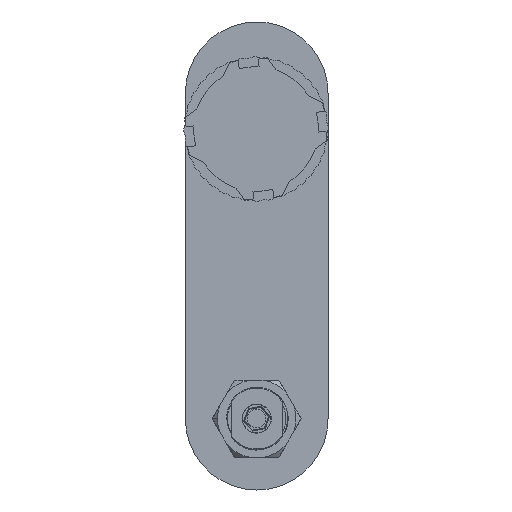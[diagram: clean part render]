
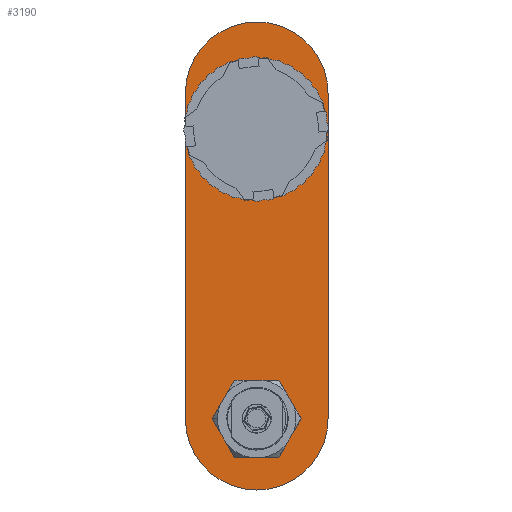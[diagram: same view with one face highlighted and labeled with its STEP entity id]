
A CAD part, front view. The second image highlights one B-rep face of the part: STEP entity #3190.
In plain terms, the highlighted planar face has unit normal (0, -1, 0).
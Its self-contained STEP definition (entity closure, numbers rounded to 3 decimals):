
#196 = CIRCLE ( 'NONE', #233, 22.5 ) ;
#233 = AXIS2_PLACEMENT_3D ( 'NONE', #257, #250, #248 ) ;
#248 = DIRECTION ( 'NONE',  ( 0., 0., 1. ) ) ;
#250 = DIRECTION ( 'NONE',  ( 0., -1., 0. ) ) ;
#257 = CARTESIAN_POINT ( 'NONE',  ( 0., 0., -13. ) ) ;
#328 = VERTEX_POINT ( 'NONE', #5766 ) ;
#382 = VERTEX_POINT ( 'NONE', #5767 ) ;
#852 = EDGE_CURVE ( 'NONE', #382, #328, #5803, .T. ) ;
#2174 = CARTESIAN_POINT ( 'NONE',  ( 0., 0., -125. ) ) ;
#2226 = CIRCLE ( 'NONE', #2229, 11. ) ;
#2229 = AXIS2_PLACEMENT_3D ( 'NONE', #2236, #2270, #2269 ) ;
#2230 = CARTESIAN_POINT ( 'NONE',  ( 0., 0., -103. ) ) ;
#2236 = CARTESIAN_POINT ( 'NONE',  ( 0., 0., -114. ) ) ;
#2240 = CARTESIAN_POINT ( 'NONE',  ( -10.904, 0., -115.446 ) ) ;
#2241 = CIRCLE ( 'NONE', #2299, 11. ) ;
#2251 = CARTESIAN_POINT ( 'NONE',  ( 0., 0., -114. ) ) ;
#2269 = DIRECTION ( 'NONE',  ( 0., 0., 1. ) ) ;
#2270 = DIRECTION ( 'NONE',  ( 0., -1., 0. ) ) ;
#2289 = DIRECTION ( 'NONE',  ( 0., 0., 1. ) ) ;
#2294 = DIRECTION ( 'NONE',  ( 0., -1., 0. ) ) ;
#2299 = AXIS2_PLACEMENT_3D ( 'NONE', #2251, #2294, #2289 ) ;
#3126 = ORIENTED_EDGE ( 'NONE', *, *, #852, .F. ) ;
#3146 = ORIENTED_EDGE ( 'NONE', *, *, #3420, .F. ) ;
#3185 = ORIENTED_EDGE ( 'NONE', *, *, #11141, .F. ) ;
#3189 = ORIENTED_EDGE ( 'NONE', *, *, #9840, .F. ) ;
#3190 = ADVANCED_FACE ( 'NONE', ( #6412, #6406, #6397 ), #6396, .F. ) ;
#3197 = EDGE_LOOP ( 'NONE', ( #3185, #3189 ) ) ;
#3338 = ORIENTED_EDGE ( 'NONE', *, *, #3347, .F. ) ;
#3339 = ORIENTED_EDGE ( 'NONE', *, *, #3342, .F. ) ;
#3340 = EDGE_CURVE ( 'NONE', #3421, #3345, #6721, .T. ) ;
#3342 = EDGE_CURVE ( 'NONE', #3421, #3424, #6719, .T. ) ;
#3343 = ORIENTED_EDGE ( 'NONE', *, *, #3349, .F. ) ;
#3344 = ORIENTED_EDGE ( 'NONE', *, *, #9605, .F. ) ;
#3345 = VERTEX_POINT ( 'NONE', #6714 ) ;
#3346 = ORIENTED_EDGE ( 'NONE', *, *, #3340, .T. ) ;
#3347 = EDGE_CURVE ( 'NONE', #328, #3345, #6764, .T. ) ;
#3348 = ORIENTED_EDGE ( 'NONE', *, *, #19990, .F. ) ;
#3349 = EDGE_CURVE ( 'NONE', #19794, #10370, #6713, .T. ) ;
#3351 = EDGE_LOOP ( 'NONE', ( #3344, #3343, #3348, #3406 ) ) ;
#3406 = ORIENTED_EDGE ( 'NONE', *, *, #19782, .F. ) ;
#3420 = EDGE_CURVE ( 'NONE', #3424, #382, #6895, .T. ) ;
#3421 = VERTEX_POINT ( 'NONE', #6897 ) ;
#3424 = VERTEX_POINT ( 'NONE', #6874 ) ;
#5766 = CARTESIAN_POINT ( 'NONE',  ( 0., 0., 25. ) ) ;
#5767 = CARTESIAN_POINT ( 'NONE',  ( -25., 0., 0. ) ) ;
#5803 = CIRCLE ( 'NONE', #5861, 25. ) ;
#5858 = DIRECTION ( 'NONE',  ( 0., 0., 1. ) ) ;
#5859 = DIRECTION ( 'NONE',  ( 0., 1., 0. ) ) ;
#5860 = CARTESIAN_POINT ( 'NONE',  ( 0., 0., 0. ) ) ;
#5861 = AXIS2_PLACEMENT_3D ( 'NONE', #5860, #5859, #5858 ) ;
#6390 = DIRECTION ( 'NONE',  ( 0., 1., 0. ) ) ;
#6396 = PLANE ( 'NONE',  #6414 ) ;
#6397 = FACE_BOUND ( 'NONE', #3351, .T. ) ;
#6405 = CARTESIAN_POINT ( 'NONE',  ( -25., 0., 0. ) ) ;
#6406 = FACE_OUTER_BOUND ( 'NONE', #10086, .T. ) ;
#6410 = DIRECTION ( 'NONE',  ( 0., 0., 1. ) ) ;
#6412 = FACE_BOUND ( 'NONE', #3197, .T. ) ;
#6414 = AXIS2_PLACEMENT_3D ( 'NONE', #6405, #6390, #6410 ) ;
#6708 = CARTESIAN_POINT ( 'NONE',  ( 0., 0., -114. ) ) ;
#6713 = CIRCLE ( 'NONE', #6759, 11. ) ;
#6714 = CARTESIAN_POINT ( 'NONE',  ( 25., 0., 0. ) ) ;
#6715 = AXIS2_PLACEMENT_3D ( 'NONE', #6708, #6767, #6766 ) ;
#6716 = DIRECTION ( 'NONE',  ( 0., 0., 1. ) ) ;
#6719 = CIRCLE ( 'NONE', #6715, 25. ) ;
#6720 = CARTESIAN_POINT ( 'NONE',  ( 25., 0., -114. ) ) ;
#6721 = LINE ( 'NONE', #6720, #6722 ) ;
#6722 = VECTOR ( 'NONE', #6716, 1000. ) ;
#6754 = DIRECTION ( 'NONE',  ( 0., 0., 1. ) ) ;
#6755 = DIRECTION ( 'NONE',  ( 0., -1., 0. ) ) ;
#6759 = AXIS2_PLACEMENT_3D ( 'NONE', #6768, #6755, #6754 ) ;
#6760 = DIRECTION ( 'NONE',  ( 0., 0., 1. ) ) ;
#6761 = DIRECTION ( 'NONE',  ( 0., 1., 0. ) ) ;
#6762 = CARTESIAN_POINT ( 'NONE',  ( 0., 0., 0. ) ) ;
#6763 = AXIS2_PLACEMENT_3D ( 'NONE', #6762, #6761, #6760 ) ;
#6764 = CIRCLE ( 'NONE', #6763, 25. ) ;
#6766 = DIRECTION ( 'NONE',  ( 0., 0., 1. ) ) ;
#6767 = DIRECTION ( 'NONE',  ( 0., 1., 0. ) ) ;
#6768 = CARTESIAN_POINT ( 'NONE',  ( 0., 0., -114. ) ) ;
#6870 = DIRECTION ( 'NONE',  ( 0., 0., 1. ) ) ;
#6871 = VECTOR ( 'NONE', #6870, 1000. ) ;
#6872 = CARTESIAN_POINT ( 'NONE',  ( -25., 0., -114. ) ) ;
#6874 = CARTESIAN_POINT ( 'NONE',  ( -25., 0., -114. ) ) ;
#6895 = LINE ( 'NONE', #6872, #6871 ) ;
#6897 = CARTESIAN_POINT ( 'NONE',  ( 25., 0., -114. ) ) ;
#9605 = EDGE_CURVE ( 'NONE', #10370, #19564, #18058, .T. ) ;
#9840 = EDGE_CURVE ( 'NONE', #9855, #9888, #18688, .T. ) ;
#9855 = VERTEX_POINT ( 'NONE', #18718 ) ;
#9888 = VERTEX_POINT ( 'NONE', #18749 ) ;
#10086 = EDGE_LOOP ( 'NONE', ( #3126, #3146, #3339, #3346, #3338 ) ) ;
#10370 = VERTEX_POINT ( 'NONE', #19825 ) ;
#11141 = EDGE_CURVE ( 'NONE', #9888, #9855, #196, .T. ) ;
#18046 = AXIS2_PLACEMENT_3D ( 'NONE', #18047, #18095, #18094 ) ;
#18047 = CARTESIAN_POINT ( 'NONE',  ( 0., 0., -114. ) ) ;
#18058 = CIRCLE ( 'NONE', #18046, 11. ) ;
#18094 = DIRECTION ( 'NONE',  ( 0., 0., 1. ) ) ;
#18095 = DIRECTION ( 'NONE',  ( 0., -1., 0. ) ) ;
#18678 = CARTESIAN_POINT ( 'NONE',  ( 0., 0., -13. ) ) ;
#18680 = AXIS2_PLACEMENT_3D ( 'NONE', #18678, #18731, #18730 ) ;
#18688 = CIRCLE ( 'NONE', #18680, 22.5 ) ;
#18718 = CARTESIAN_POINT ( 'NONE',  ( 0., 0., -35.5 ) ) ;
#18730 = DIRECTION ( 'NONE',  ( 0., 0., 1. ) ) ;
#18731 = DIRECTION ( 'NONE',  ( 0., -1., 0. ) ) ;
#18749 = CARTESIAN_POINT ( 'NONE',  ( 0., 0., 9.5 ) ) ;
#19564 = VERTEX_POINT ( 'NONE', #2240 ) ;
#19573 = VERTEX_POINT ( 'NONE', #2174 ) ;
#19782 = EDGE_CURVE ( 'NONE', #19564, #19573, #2226, .T. ) ;
#19794 = VERTEX_POINT ( 'NONE', #2230 ) ;
#19825 = CARTESIAN_POINT ( 'NONE',  ( -8.397, 0., -106.894 ) ) ;
#19990 = EDGE_CURVE ( 'NONE', #19573, #19794, #2241, .T. ) ;
